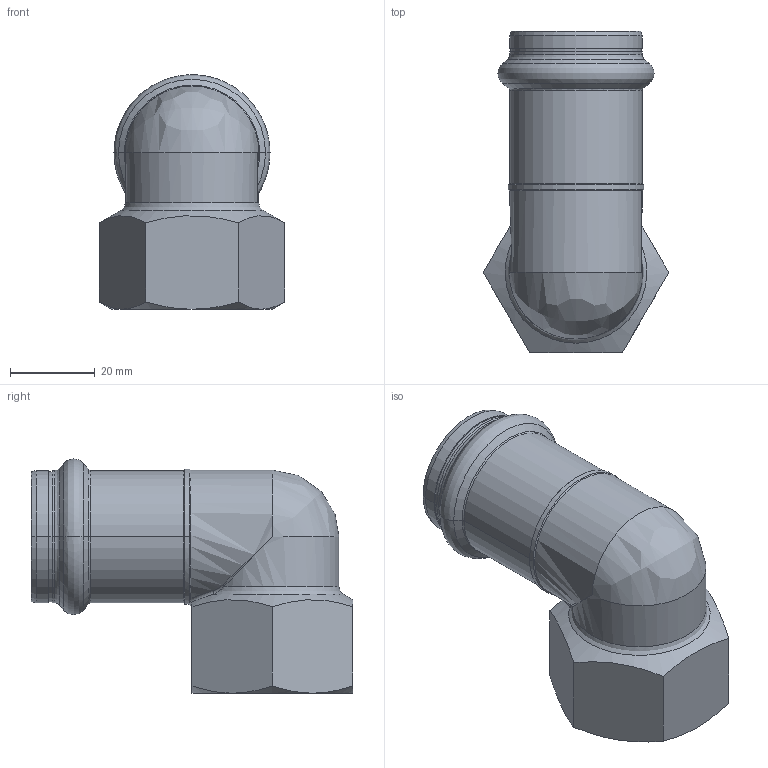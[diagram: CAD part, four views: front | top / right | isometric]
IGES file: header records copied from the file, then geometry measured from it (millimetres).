
Start section: Elysium IGES Interface
Global section: file name: F:\3d modellen sudo\S-Pr VP\SP6090GV\6090GVW281.igs; native system: CoCreate Modeling 17.00A  17-Jun-2010; preprocessor: CoCreate IGES_3D V2.2; author: Unknown; organization: Unknown; date: 20130128.100231; units: millimetre
Bounding box: 43.88 x 76 x 55.44 mm (x, y, z)
Volume: 27056.4 mm3; surface area: 19497.2 mm2
Topology: 1 solids, 1 shells, 86 faces, 200 edges, 110 vertices
Faces by surface type: bspline 86
